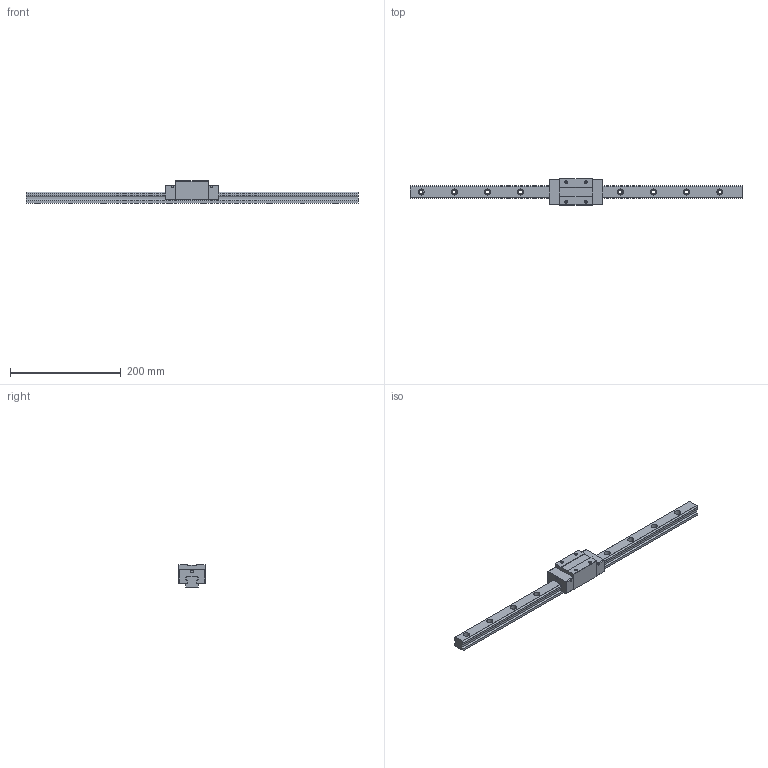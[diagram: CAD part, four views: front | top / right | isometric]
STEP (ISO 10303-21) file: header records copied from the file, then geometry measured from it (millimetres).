
FILE_DESCRIPTION (( 'STEP AP203' ), '1' );
FILE_NAME ('TRH25VN-DU.STEP', '2024-07-10T07:17:16', ( '' ), ( '' ), 'SwSTEP 2.0', 'SolidWorks 2022', '' );
FILE_SCHEMA (( 'CONFIG_CONTROL_DESIGN' ));
Length unit declared in the file: millimetre
Products named in the file (1): TRH25VN-DU
Bounding box: 600 x 48 x 40 mm (x, y, z)
Volume: 349277.8 mm3; surface area: 80800.8 mm2
Topology: 2 solids, 2 shells, 200 faces, 520 edges, 336 vertices
Faces by surface type: cylinder 96, plane 88, cone 16
Entity records: 6223 total; most frequent: DIRECTION 1114, CARTESIAN_POINT 1049, ORIENTED_EDGE 1024, EDGE_CURVE 512, AXIS2_PLACEMENT_3D 401, VERTEX_POINT 336, VECTOR 312, LINE 312
